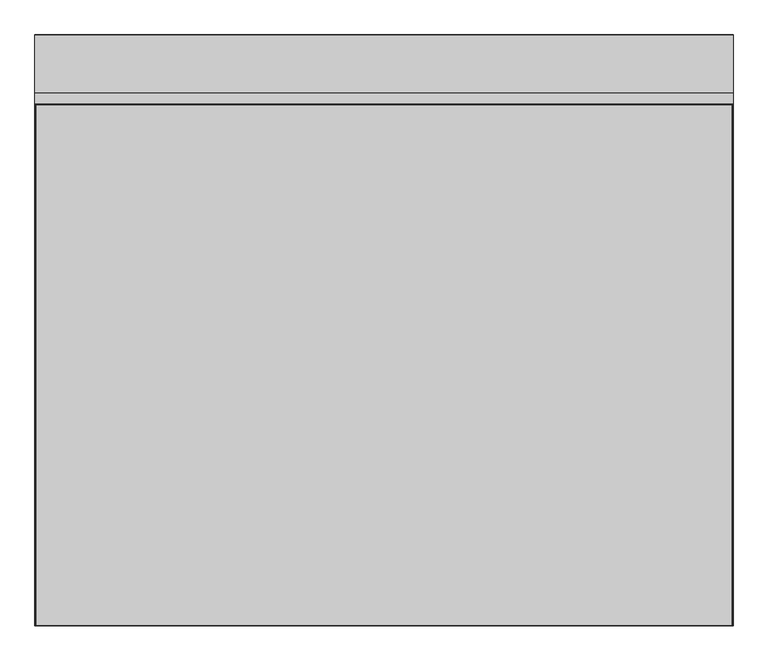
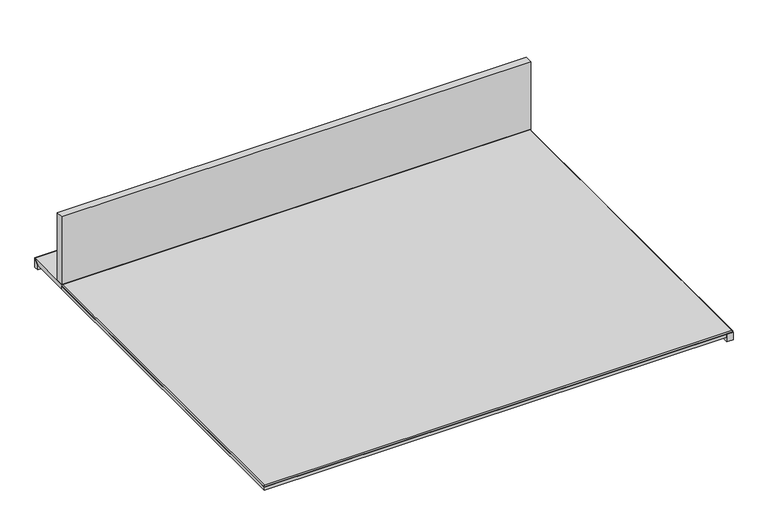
"""IFC4 building model written with IfcOpenShell, lengths in millimetres: proxy geometry, BASYS^OFFICE 7_WALL HUNG-RIGHT UNIT."""

from ifc_helpers import new_model, si_unit, frame, origin, origin_with_axes, place, context, project, spatial, polyline, ellipse_curve, outline, extrude, faceted_brep, source, transform, mapped, element, save
from ifc_brep_helpers import plane_surface, cylinder_surface, advanced_brep


def generic_models_95cabb8a(model_context):
    return source(origin(), model_context, "Body", "SolidModel", [
        extrude(outline(polyline([(1803.4, 0.0), (1828.8, 0.0), (1828.8, -1368.425), (1803.4, -1368.425), (1803.4, 0.0)])), frame((0.0, 0.0, -19.05), z_axis=(0.0, 0.0, 1.0), x_axis=(1.0, 0.0, 0.0)), (0.0, 0.0, 1.0), 31.75),
        faceted_brep([(1828.8, 180.975, 19.05), (1809.75, 161.925, 0.0), (1809.75, 161.925, -19.05), (1828.8, 180.975, -19.05), (0.0, 161.925, 0.0), (0.0, 161.925, -19.05), (0.0, 180.975, 19.05), (0.0, 180.975, -19.05)], [[[0, 1, 2, 3]], [[2, 1, 4, 5]], [[1, 0, 6, 4]], [[0, 3, 7, 6]], [[3, 2, 5, 7]], [[7, 5, 4, 6]]]),
        advanced_brep(
        [(1826.41875, -1366.04375, 19.05), (1826.41875, -1366.04375, 12.7), (1826.41875, -2.38125, 12.7), (1826.41875, -2.38125, 19.05), (2.38125, -1366.04375, 19.05), (2.38125, -1366.04375, 12.7), (2.38125, -2.38125, 19.05), (2.38125, -2.38125, 12.7)],
        [
            (0, 1, ellipse_curve(frame((1824.0375, -1363.6625, 15.875), z_axis=(0.7071067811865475, 0.7071067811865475, 0.0), x_axis=(-0.7071067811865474, 0.7071067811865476, 0.0)), 5.6126601, 3.96875)),
            (1, 2),
            (2, 3, ellipse_curve(frame((1824.0375, -4.7625, 15.875), z_axis=(0.7071067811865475, -0.7071067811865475, 0.0), x_axis=(0.7071067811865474, 0.7071067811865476, 0.0)), 5.6126601, 3.96875)),
            (3, 0),
            (4, 5, ellipse_curve(frame((4.7625, -1363.6625, 15.875), z_axis=(0.7071067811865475, -0.7071067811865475, 0.0), x_axis=(0.7071067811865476, 0.7071067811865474, 0.0)), 5.6126601, 3.96875)),
            (5, 1),
            (0, 4),
            (6, 7, ellipse_curve(frame((4.7625, -4.7625, 15.875), z_axis=(-0.7071067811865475, -0.7071067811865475, 0.0), x_axis=(0.7071067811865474, -0.7071067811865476, 0.0)), 5.6126601, 3.96875)),
            (7, 5),
            (4, 6),
            (2, 7),
            (6, 3),
        ],
        [
            cylinder_surface(frame((1824.0375, -1363.6625, 15.875), z_axis=(0.0, 1.0, 0.0), x_axis=(1.0, 0.0, 0.0)), 3.96875),
            cylinder_surface(frame((4.7625, -1363.6625, 15.875), z_axis=(1.0, 0.0, 0.0), x_axis=(0.0, -1.0, 0.0)), 3.96875),
            cylinder_surface(frame((4.7625, -4.7625, 15.875), z_axis=(0.0, -1.0, 0.0), x_axis=(-1.0, 0.0, 0.0)), 3.96875),
            cylinder_surface(frame((1828.00625, -4.7625, 15.875), z_axis=(-1.0, 0.0, 0.0), x_axis=(0.0, -0.5999999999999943, 0.8000000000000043)), 3.96875),
            plane_surface(frame((914.4, -684.2125, 19.05), z_axis=(0.0, 0.0, 1.0), x_axis=(1.0, 0.0, 0.0))),
            plane_surface(frame((914.4, -684.2125, 12.7), z_axis=(0.0, 0.0, -1.0), x_axis=(1.0, 0.0, 0.0))),
        ],
        [
            (0, [[1, 2, 3, 4]]),
            (1, [[5, 6, -1, 7]]),
            (2, [[8, 9, -5, 10]]),
            (3, [[-3, 11, -8, 12]]),
            (4, [[-4, -12, -10, -7]]),
            (5, [[-2, -6, -9, -11]]),
        ],
    ),
        extrude(outline(polyline([(0.0, -1368.425), (0.0, 0.0), (1803.4, 0.0), (1803.4, -1368.425), (0.0, -1368.425)])), origin_with_axes(), (0.0, 0.0, 1.0), 12.7),
        faceted_brep([(1809.75, 161.925, 0.0), (1828.8, 180.975, 19.05), (1828.8, 0.0, 19.05), (1809.75, 0.0, 0.0), (0.0, 0.0, 0.0), (0.0, 161.925, 0.0), (0.0, 0.0, 19.05), (0.0, 180.975, 19.05)], [[[0, 1, 2, 3]], [[0, 3, 4, 5]], [[3, 2, 6, 4]], [[1, 0, 5, 7]], [[7, 5, 4, 6]], [[2, 1, 7, 6]]]),
        extrude(outline(polyline([(1828.8, 28.575), (1828.8, 0.0), (0.0, 0.0), (0.0, 28.575), (1828.8, 28.575)])), frame((0.0, 0.0, 19.05), z_axis=(0.0, 0.0, 1.0), x_axis=(1.0, 0.0, 0.0)), (0.0, 0.0, 1.0), 279.4),
        faceted_brep([(1809.75, 161.925, 0.0), (1809.75, 161.925, -19.05), (1809.75, 0.0, -19.05), (1809.75, 0.0, 0.0), (1828.8, 180.975, -19.05), (1828.8, 0.0, -19.05), (1828.8, 180.975, 19.05), (1828.8, 0.0, 19.05)], [[[0, 1, 2, 3]], [[1, 4, 5, 2]], [[4, 6, 7, 5]], [[6, 0, 3, 7]], [[3, 2, 5, 7]], [[4, 1, 0, 6]]]),
    ])


if __name__ == "__main__":
    model = new_model("IFC4")
    model_context = context("Model", 3, world=origin())
    ifc_project = project(units=[si_unit("LENGTHUNIT", "METRE", prefix="MILLI")], contexts=[model_context])
    site = spatial("IfcSite", under=ifc_project)
    building = spatial("IfcBuilding", under=site)
    placement = place(None, origin())
    generic_models_shape = generic_models_95cabb8a(model_context)
    element("IfcBuildingElementProxy", 1, Name="BASYS^OFFICE 7_WALL HUNG-RIGHT UNIT", ObjectType="BASYS^OFFICE 7_WALL HUNG-RIGHT UNIT", at=placement, inside=building, context=model_context, shape_type="MappedRepresentation", body=[
        mapped(generic_models_shape, transform((0.0, 0.0, 0.0), x_axis=(1.0, 0.0, 0.0), y_axis=(0.0, 1.0, 0.0), z_axis=(0.0, 0.0, 1.0))),
    ])
    save(model, "model.ifc")
